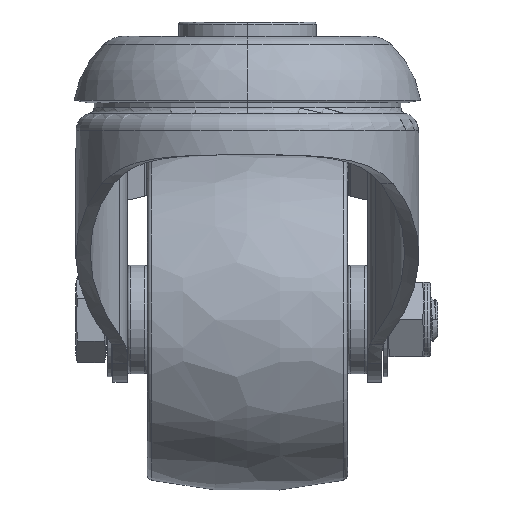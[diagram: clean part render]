
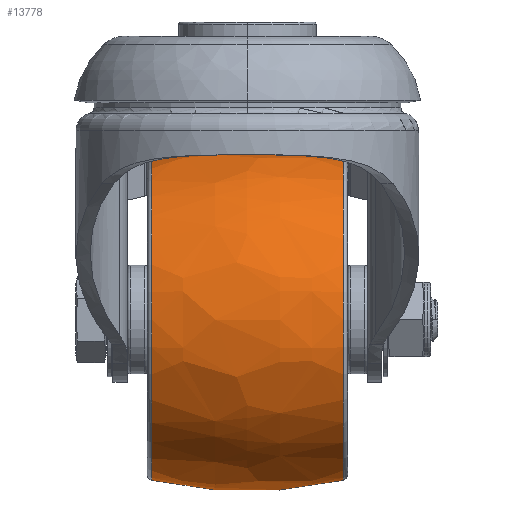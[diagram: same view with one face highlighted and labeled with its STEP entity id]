
A CAD part, left-side view. The second image highlights one B-rep face of the part: STEP entity #13778.
In plain terms, the highlighted free-form (B-spline) face has degree [3, 3] with [7, 4] control points.
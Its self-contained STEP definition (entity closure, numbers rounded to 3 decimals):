
#13528=CARTESIAN_POINT('',(0.,0.,-43.967));
#13529=DIRECTION('',(0.,-1.,0.));
#13530=DIRECTION('',(0.226,0.,0.974));
#13531=AXIS2_PLACEMENT_3D('',#13528,#13529,#13530);
#13538=CARTESIAN_POINT('',(0.,0.,43.967));
#13539=DIRECTION('',(0.,1.,0.));
#13540=DIRECTION('',(0.226,0.,-0.974));
#13541=AXIS2_PLACEMENT_3D('',#13538,#13539,#13540);
#13553=CARTESIAN_POINT('',(16.726,0.,0.));
#13554=DIRECTION('',(-1.,0.,0.));
#13555=DIRECTION('',(0.,0.,-1.));
#13556=AXIS2_PLACEMENT_3D('',#13553,#13554,#13555);
#13558=CARTESIAN_POINT('',(-16.726,0.,0.));
#13559=DIRECTION('',(-1.,0.,0.));
#13560=DIRECTION('',(0.,0.,-1.));
#13561=AXIS2_PLACEMENT_3D('',#13558,#13559,#13560);
#13571=CARTESIAN_POINT('',(16.726,0.,-28.084));
#13572=CARTESIAN_POINT('',(16.726,0.,28.084));
#13573=VERTEX_POINT('',#13571);
#13574=VERTEX_POINT('',#13572);
#13583=CARTESIAN_POINT('',(-16.726,0.,-28.084));
#13584=CARTESIAN_POINT('',(-16.726,0.,28.084));
#13585=VERTEX_POINT('',#13583);
#13586=VERTEX_POINT('',#13584);
#13743=CARTESIAN_POINT('',(17.383,1.754,
-27.873));
#13744=CARTESIAN_POINT('',(5.905,1.928,
-30.643));
#13745=CARTESIAN_POINT('',(-5.905,1.928,
-30.643));
#13746=CARTESIAN_POINT('',(-17.383,1.754,
-27.873));
#13747=CARTESIAN_POINT('',(17.383,-15.4,
-28.953));
#13748=CARTESIAN_POINT('',(5.905,-16.93,
-31.83));
#13749=CARTESIAN_POINT('',(-5.905,-16.93,
-31.83));
#13750=CARTESIAN_POINT('',(-17.383,-15.4,
-28.953));
#13751=CARTESIAN_POINT('',(17.383,-27.928,
-17.187));
#13752=CARTESIAN_POINT('',(5.905,-30.704,
-18.895));
#13753=CARTESIAN_POINT('',(-5.905,-30.704,
-18.895));
#13754=CARTESIAN_POINT('',(-17.383,-27.928,
-17.187));
#13755=CARTESIAN_POINT('',(17.383,-27.928,
0.));
#13756=CARTESIAN_POINT('',(5.905,-30.704,
0.));
#13757=CARTESIAN_POINT('',(-5.905,-30.704,0.));
#13758=CARTESIAN_POINT('',(-17.383,-27.928,
0.));
#13759=CARTESIAN_POINT('',(17.383,-27.928,
17.187));
#13760=CARTESIAN_POINT('',(5.905,-30.704,
18.895));
#13761=CARTESIAN_POINT('',(-5.905,-30.704,
18.895));
#13762=CARTESIAN_POINT('',(-17.383,-27.928,
17.187));
#13763=CARTESIAN_POINT('',(17.383,-15.4,
28.953));
#13764=CARTESIAN_POINT('',(5.905,-16.93,
31.83));
#13765=CARTESIAN_POINT('',(-5.905,-16.93,
31.83));
#13766=CARTESIAN_POINT('',(-17.383,-15.4,
28.953));
#13767=CARTESIAN_POINT('',(17.383,1.754,27.873));
#13768=CARTESIAN_POINT('',(5.905,1.928,30.643));
#13769=CARTESIAN_POINT('',(-5.905,1.928,
30.643));
#13770=CARTESIAN_POINT('',(-17.383,1.754,
27.873));
#13771=(BOUNDED_SURFACE()B_SPLINE_SURFACE(3,3,((#13743,#13744,#13745,#13746),(
#13747,#13748,#13749,#13750),(#13751,#13752,#13753,#13754),(#13755,#13756,
#13757,#13758),(#13759,#13760,#13761,#13762),(#13763,#13764,#13765,#13766),(
#13767,#13768,#13769,#13770)),.UNSPECIFIED.,.F.,.F.,.F.)B_SPLINE_SURFACE_WITH_KNOTS((4,3,4),(4,4),(0.,1.,2.),(0.,1.),.UNSPECIFIED.)GEOMETRIC_REPRESENTATION_ITEM()RATIONAL_B_SPLINE_SURFACE(((1.204,1.182,
1.182,1.204),(0.951,0.933,
0.933,0.951),(0.951,0.933,
0.933,0.951),(1.204,1.182,
1.182,1.204),(0.951,0.933,
0.933,0.951),(0.951,0.933,
0.933,0.951),(1.204,1.182,
1.182,1.204)))REPRESENTATION_ITEM('')SURFACE());
#13772=ORIENTED_EDGE('',*,*,#13735,.F.);
#13773=ORIENTED_EDGE('',*,*,#13711,.T.);
#13774=ORIENTED_EDGE('',*,*,#13657,.T.);
#13775=ORIENTED_EDGE('',*,*,#13708,.F.);
#13776=EDGE_LOOP('',(#13772,#13773,#13774,#13775));
#13777=FACE_OUTER_BOUND('',#13776,.F.);
#13778=ADVANCED_FACE('',(#13777),#13771,.T.);
#13532=CIRCLE('',#13531,73.967);
#13542=CIRCLE('',#13541,73.967);
#13557=CIRCLE('',#13556,28.084);
#13562=CIRCLE('',#13561,28.084);
#13657=EDGE_CURVE('',#13585,#13586,#13562,.T.);
#13708=EDGE_CURVE('',#13574,#13586,#13532,.T.);
#13711=EDGE_CURVE('',#13573,#13585,#13542,.T.);
#13735=EDGE_CURVE('',#13573,#13574,#13557,.T.);
